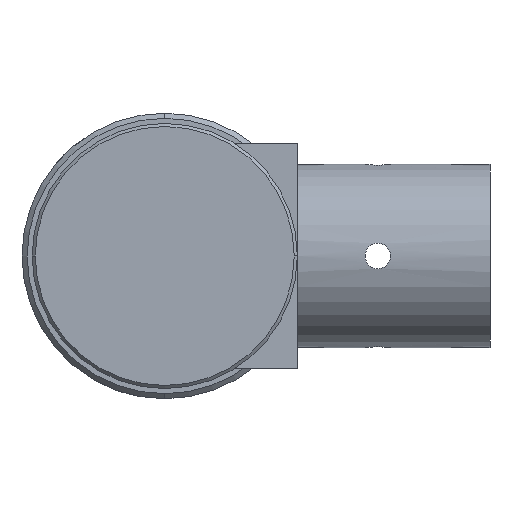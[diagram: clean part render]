
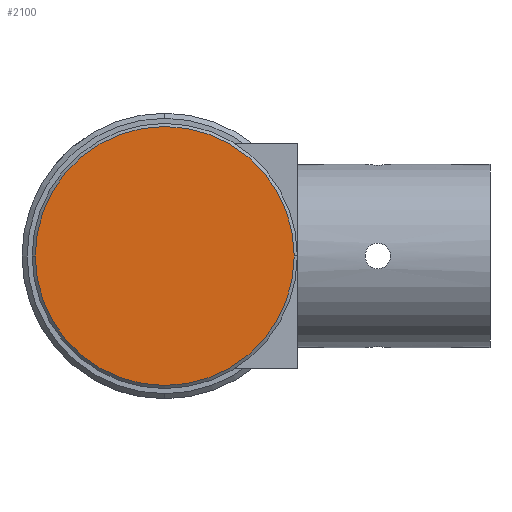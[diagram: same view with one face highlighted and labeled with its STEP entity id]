
A CAD part, left-side view. The second image highlights one B-rep face of the part: STEP entity #2100.
In plain terms, the highlighted planar face has unit normal (-1, 0, 0).
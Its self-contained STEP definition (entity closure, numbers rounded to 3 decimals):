
#32 = EDGE_CURVE ( 'NONE', #1987, #556, #721, .T. ) ;
#56 = AXIS2_PLACEMENT_3D ( 'NONE', #1066, #701, #1228 ) ;
#134 = DIRECTION ( 'NONE',  ( -1., 0., 0. ) ) ;
#466 = AXIS2_PLACEMENT_3D ( 'NONE', #1210, #1591, #659 ) ;
#477 = EDGE_LOOP ( 'NONE', ( #1958, #1116 ) ) ;
#556 = VERTEX_POINT ( 'NONE', #2022 ) ;
#659 = DIRECTION ( 'NONE',  ( 0., 1., 0. ) ) ;
#701 = DIRECTION ( 'NONE',  ( -1., 0., 0. ) ) ;
#721 = CIRCLE ( 'NONE', #848, 12.7 ) ;
#848 = AXIS2_PLACEMENT_3D ( 'NONE', #1475, #134, #1902 ) ;
#1061 = FACE_OUTER_BOUND ( 'NONE', #477, .T. ) ;
#1066 = CARTESIAN_POINT ( 'NONE',  ( -110.2, -12.852, -12.852 ) ) ;
#1116 = ORIENTED_EDGE ( 'NONE', *, *, #32, .T. ) ;
#1210 = CARTESIAN_POINT ( 'NONE',  ( -110.2, 0., 0. ) ) ;
#1228 = DIRECTION ( 'NONE',  ( 0., 0., 1. ) ) ;
#1475 = CARTESIAN_POINT ( 'NONE',  ( -110.2, 0., 0. ) ) ;
#1583 = CARTESIAN_POINT ( 'NONE',  ( -110.2, -12.7, 0. ) ) ;
#1591 = DIRECTION ( 'NONE',  ( -1., 0., 0. ) ) ;
#1643 = PLANE ( 'NONE',  #56 ) ;
#1894 = CIRCLE ( 'NONE', #466, 12.7 ) ;
#1902 = DIRECTION ( 'NONE',  ( 0., 1., 0. ) ) ;
#1958 = ORIENTED_EDGE ( 'NONE', *, *, #2007, .T. ) ;
#1987 = VERTEX_POINT ( 'NONE', #1583 ) ;
#2007 = EDGE_CURVE ( 'NONE', #556, #1987, #1894, .T. ) ;
#2022 = CARTESIAN_POINT ( 'NONE',  ( -110.2, 12.7, 0. ) ) ;
#2100 = ADVANCED_FACE ( 'NONE', ( #1061 ), #1643, .T. ) ;
